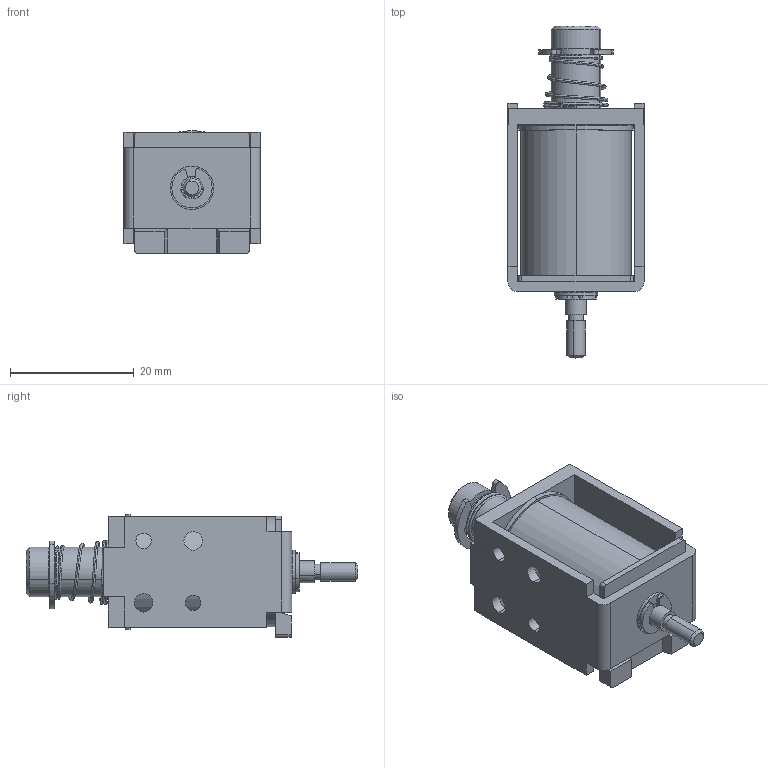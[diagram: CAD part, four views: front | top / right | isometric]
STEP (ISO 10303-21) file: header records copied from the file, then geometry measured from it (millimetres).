
FILE_DESCRIPTION (( 'STEP AP203' ), '1' );
FILE_NAME ('w_cbs0830.STEP', '2014-07-25T02:06:53', ( 'jiba' ), ( 'Hewlett-Packard Company' ), 'SwSTEP 2.0', 'SolidWorks 2014', '' );
FILE_SCHEMA (( 'CONFIG_CONTROL_DESIGN' ));
Length unit declared in the file: millimetre
Products named in the file (4): Part5^w_cbs0830; Part1^w_cbs0830_pl; w_20830083; w_cbs0830
Assembly tree (3 placements, depth 2):
  w_cbs0830
    Part5^w_cbs0830
    Part1^w_cbs0830_pl
    w_20830083
Bounding box: 22 x 53.6 x 19.85 mm (x, y, z)
Volume: 9889.6 mm3; surface area: 7814.7 mm2
Topology: 3 solids, 3 shells, 178 faces, 486 edges, 316 vertices
Faces by surface type: cylinder 85, plane 83, cone 8, bspline 2
Entity records: 8892 total; most frequent: CARTESIAN_POINT 3754, DIRECTION 1052, ORIENTED_EDGE 972, EDGE_CURVE 486, AXIS2_PLACEMENT_3D 390, VERTEX_POINT 316, VECTOR 272, LINE 272
